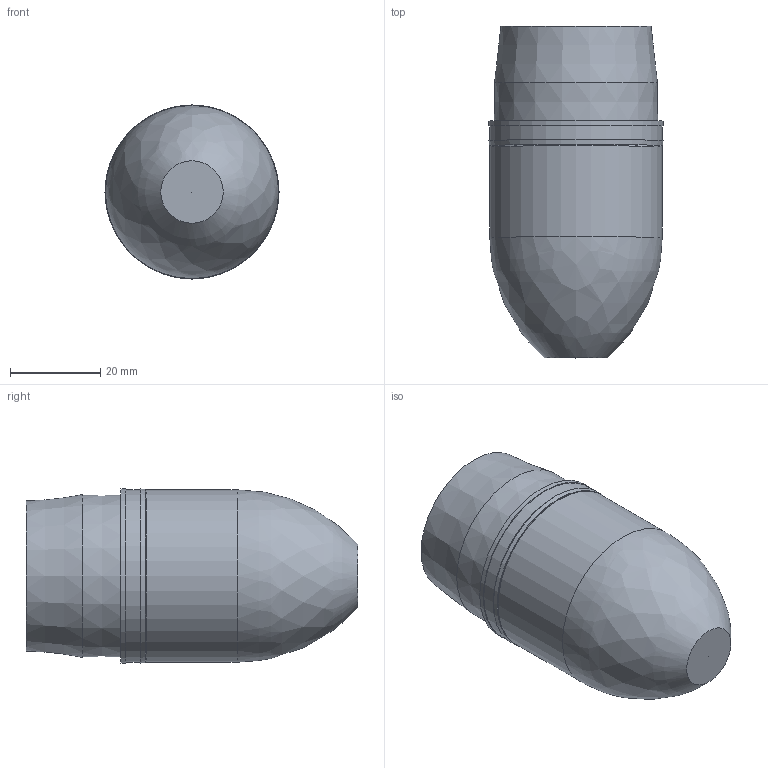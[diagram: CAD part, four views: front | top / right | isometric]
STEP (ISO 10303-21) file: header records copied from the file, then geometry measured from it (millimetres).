
FILE_DESCRIPTION(/* description */ (''),/* implementation_level */ '2;1');
FILE_NAME(/* name */ 'C:/Users/Matth/Favorites/CAD/CAD/Launchers/Ammo/Neuer Ordner/M781 37mm.step',/* time_stamp */ '2022-01-30T03:46:18+01:00',/* author */ (''),/* organization */ (''),/* preprocessor_version */ 'ST-DEVELOPER v18.1',/* originating_system */ 'Autodesk Translation Framework v10.13.0.1454',/* authorisation */ '');
FILE_SCHEMA (('AUTOMOTIVE_DESIGN { 1 0 10303 214 3 1 1 }'));
Length unit declared in the file: millimetre
Products named in the file (3): (Unsaved); Base Pusher; Windshield
Assembly tree (2 placements, depth 2):
  (Unsaved)
    Base Pusher
    Windshield
Bounding box: 38.5 x 73.4 x 38.5 mm (x, y, z)
Volume: 36521.9 mm3; surface area: 17547.8 mm2
Topology: 2 solids, 2 shells, 33 faces, 59 edges, 38 vertices
Faces by surface type: plane 12, cone 8, torus 6, cylinder 5, bspline 2
Full cylindrical faces by diameter (mm): 34 x2, 38.123 x1, 38.188 x1, 38.5 x1
Entity records: 957 total; most frequent: CARTESIAN_POINT 186, DIRECTION 175, ORIENTED_EDGE 116, AXIS2_PLACEMENT_3D 81, EDGE_CURVE 58, CIRCLE 45, EDGE_LOOP 42, VERTEX_POINT 38
